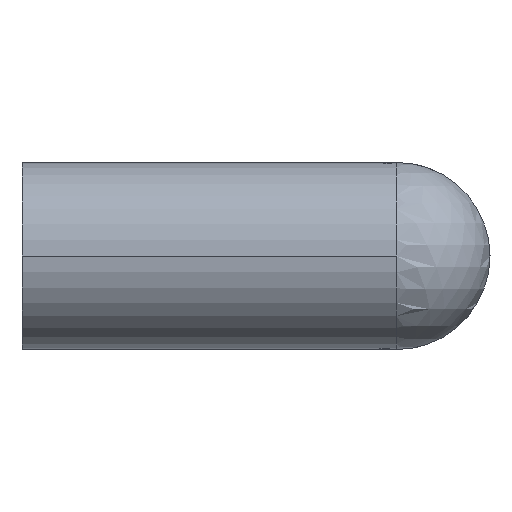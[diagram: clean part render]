
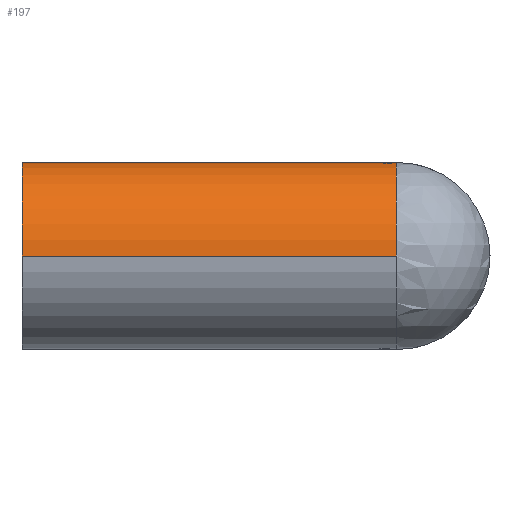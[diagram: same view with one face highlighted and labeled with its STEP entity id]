
A CAD part, left-side view. The second image highlights one B-rep face of the part: STEP entity #197.
In plain terms, the highlighted cylindrical face has radius 6 mm (diameter 12 mm), a partial arc.
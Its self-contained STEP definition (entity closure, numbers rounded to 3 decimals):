
#105 = EDGE_CURVE( '', #199, #161, #263, .T. );
#143 = VERTEX_POINT( '', #303 );
#147 = VERTEX_POINT( '', #307 );
#161 = VERTEX_POINT( '', #322 );
#171 = EDGE_CURVE( '', #179, #143, #333, .T. );
#179 = VERTEX_POINT( '', #343 );
#197 = ADVANCED_FACE( '', ( #363 ), #364, .T. );
#199 = VERTEX_POINT( '', #366 );
#211 = EDGE_CURVE( '', #199, #147, #380, .T. );
#213 = EDGE_CURVE( '', #147, #143, #382, .T. );
#229 = EDGE_CURVE( '', #161, #179, #401, .T. );
#263 = LINE( '', #428, #429 );
#303 = CARTESIAN_POINT( '', ( 6., -18., 0. ) );
#307 = CARTESIAN_POINT( '', ( 0., -24., 6. ) );
#322 = CARTESIAN_POINT( '', ( -6., 0., 0. ) );
#333 = LINE( '', #519, #520 );
#343 = CARTESIAN_POINT( '', ( 6., 0., 0. ) );
#363 = FACE_OUTER_BOUND( '', #556, .T. );
#364 = CYLINDRICAL_SURFACE( '', #557, 6. );
#366 = CARTESIAN_POINT( '', ( -6., -24., 0. ) );
#380 = CIRCLE( '', #577, 6. );
#382 = ELLIPSE( '', #580, 8.485, 6. );
#401 = CIRCLE( '', #604, 6. );
#428 = CARTESIAN_POINT( '', ( -6., 0., 0. ) );
#429 = VECTOR( '', #634, 1. );
#519 = CARTESIAN_POINT( '', ( 6., 0., 0. ) );
#520 = VECTOR( '', #701, 1. );
#556 = EDGE_LOOP( '', ( #746, #747, #748, #749, #750 ) );
#557 = AXIS2_PLACEMENT_3D( '', #751, #752, #753 );
#577 = AXIS2_PLACEMENT_3D( '', #773, #774, #775 );
#580 = AXIS2_PLACEMENT_3D( '', #776, #777, #778 );
#604 = AXIS2_PLACEMENT_3D( '', #808, #809, #810 );
#634 = DIRECTION( '', ( 0., 1., 0. ) );
#701 = DIRECTION( '', ( 0., -1., 0. ) );
#746 = ORIENTED_EDGE( '', *, *, #171, .F. );
#747 = ORIENTED_EDGE( '', *, *, #229, .F. );
#748 = ORIENTED_EDGE( '', *, *, #105, .F. );
#749 = ORIENTED_EDGE( '', *, *, #211, .T. );
#750 = ORIENTED_EDGE( '', *, *, #213, .T. );
#751 = CARTESIAN_POINT( '', ( 0., 0., 0. ) );
#752 = DIRECTION( '', ( 0., 1., 0. ) );
#753 = DIRECTION( '', ( 1., 0., 0. ) );
#773 = CARTESIAN_POINT( '', ( 0., -24., 0. ) );
#774 = DIRECTION( '', ( 0., 1., 0. ) );
#775 = DIRECTION( '', ( 1., 0., 0. ) );
#776 = CARTESIAN_POINT( '', ( 0., -24., 0. ) );
#777 = DIRECTION( '', ( -0.707, 0.707, 0. ) );
#778 = DIRECTION( '', ( 0.707, 0.707, 0. ) );
#808 = CARTESIAN_POINT( '', ( 0., 0., 0. ) );
#809 = DIRECTION( '', ( 0., 1., 0. ) );
#810 = DIRECTION( '', ( 1., 0., 0. ) );
